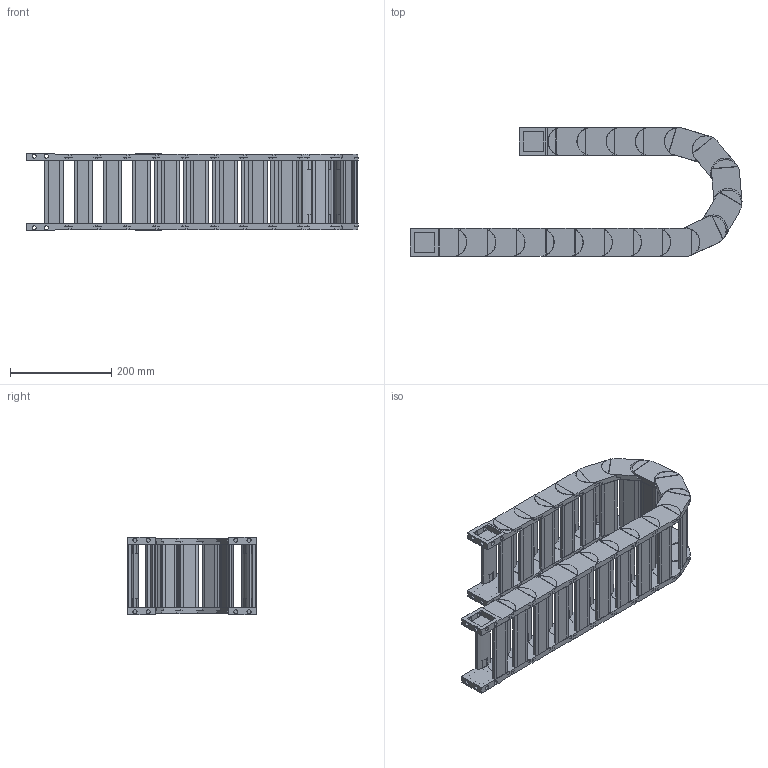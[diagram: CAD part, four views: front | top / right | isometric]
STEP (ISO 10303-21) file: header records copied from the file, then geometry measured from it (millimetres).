
FILE_DESCRIPTION((''),'2;1');
FILE_NAME('HD35-R100-ZPT_ASM','2022-06-17T13:49:55',('admin'),(''),'CREO PARAMETRIC BY PTC INC, 2021164','CREO PARAMETRIC BY PTC INC, 2021164','');
FILE_SCHEMA(('CONFIG_CONTROL_DESIGN','GEOMETRIC_VALIDATION_PROPERTIES_MIM'));
Length unit declared in the file: millimetre
Products named in the file (6): HD35; 35-600001; HD35_ASM; 35-TL_11; 35-WL; HD35-R100-ZPT_ASM
Assembly tree (23 placements, depth 3):
  HD35-R100-ZPT_ASM
    HD35_ASM  x17
      HD35
      35-600001
    35-TL_11
    35-WL
    35-600001  x2
Bounding box: 655.07 x 253.99 x 153.4 mm (x, y, z)
Volume: 2924411 mm3; surface area: 1027736.1 mm2
Topology: 76 solids, 76 shells, 1426 faces, 3794 edges, 2600 vertices
Faces by surface type: plane 968, cylinder 458
Entity records: 9395 total; most frequent: DIRECTION 1420, CARTESIAN_POINT 1410, ORIENTED_EDGE 1300, EDGE_CURVE 650, AXIS2_PLACEMENT_3D 505, VERTEX_POINT 440, VECTOR 410, LINE 410
